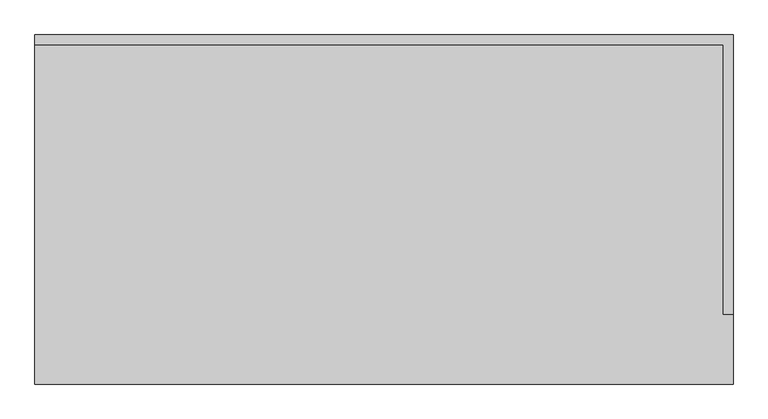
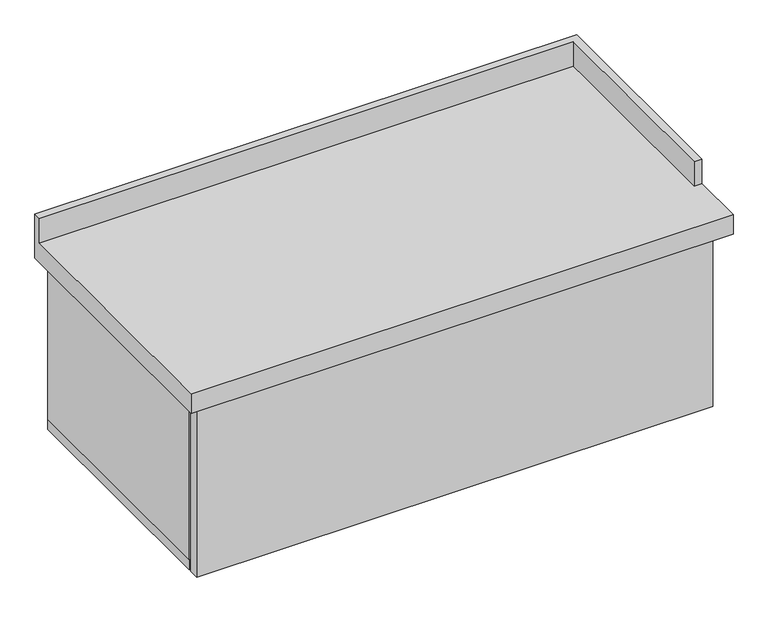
"""IFC4 building model written with IfcOpenShell, lengths in millimetres: furniture geometry, Mueble colgado 1 cajon - lavabo sobreponer : MB1 mueble baño colgado-1 cajon - 90cm 2."""

from ifc_helpers import new_model, si_unit, frame, origin, place, context, project, spatial, polyline, outline, extrude, faceted_brep, source, transform, mapped, element, save


def furniture_79dabd64(model_context):
    return source(origin(), model_context, "Body", "SolidModel", [
        faceted_brep([(635.0, -90.0, 800.0), (-400.0, -90.0, 800.0), (-400.0, -90.0, 750.0), (635.0, -90.0, 750.0), (635.0, -495.0, 800.0), (650.0, -495.0, 800.0), (650.0, -75.0, 800.0), (-400.0, -75.0, 800.0), (-400.0, -75.0, 710.0), (-400.0, -600.0, 710.0), (-400.0, -600.0, 750.0), (650.0, -75.0, 710.0), (635.0, -495.0, 750.0), (650.0, -495.0, 750.0), (650.0, -600.0, 750.0), (650.0, -600.0, 710.0)], [[[0, 1, 2, 3]], [[0, 4, 5, 6, 7, 1]], [[1, 7, 8, 9, 10, 2]], [[6, 11, 8, 7]], [[4, 12, 13, 5]], [[3, 12, 4, 0]], [[5, 13, 14, 15, 11, 6]], [[14, 13, 12, 3, 2, 10]], [[15, 9, 8, 11]], [[14, 10, 9, 15]]]),
        extrude(outline(polyline([(625.0, -575.0), (-375.0, -575.0), (-375.0, -555.0), (625.0, -555.0), (625.0, -575.0)])), frame((0.0, 0.0, 350.0), z_axis=(0.0, 0.0, 1.0), x_axis=(1.0, 0.0, 0.0)), (0.0, 0.0, 1.0), 350.0),
        extrude(outline(polyline([(625.0, -75.0), (625.0, -550.0), (605.0, -550.0), (605.0, -75.0), (625.0, -75.0)])), frame((0.0, 0.0, 370.0), z_axis=(0.0, 0.0, 1.0), x_axis=(1.0, 0.0, 0.0)), (0.0, 0.0, 1.0), 340.0),
        extrude(outline(polyline([(-355.0, -75.0), (-355.0, -550.0), (-375.0, -550.0), (-375.0, -75.0), (-355.0, -75.0)])), frame((0.0, 0.0, 370.0), z_axis=(0.0, 0.0, 1.0), x_axis=(1.0, 0.0, 0.0)), (0.0, 0.0, 1.0), 340.0),
        extrude(outline(polyline([(625.0, -550.0), (-375.0, -550.0), (-375.0, -75.0), (625.0, -75.0), (625.0, -550.0)])), frame((0.0, 0.0, 350.0), z_axis=(0.0, 0.0, 1.0), x_axis=(1.0, 0.0, 0.0)), (0.0, 0.0, 1.0), 20.0),
    ])


if __name__ == "__main__":
    model = new_model("IFC4")
    model_context = context("Model", 3, world=origin())
    ifc_project = project(units=[si_unit("LENGTHUNIT", "METRE", prefix="MILLI")], contexts=[model_context])
    site = spatial("IfcSite", under=ifc_project)
    building = spatial("IfcBuilding", under=site)
    placement = place(None, origin())
    furniture_shape = furniture_79dabd64(model_context)
    element("IfcFurniture", 1, ObjectType="Mueble colgado 1 cajon - lavabo sobreponer : MB1 mueble baño colgado-1 cajon - 90cm 2", at=placement, inside=building, context=model_context, shape_type="MappedRepresentation", body=[
        mapped(furniture_shape, transform((0.0, 0.0, 0.0), x_axis=(1.0, 0.0, 0.0), y_axis=(0.0, 1.0, 0.0), z_axis=(0.0, 0.0, 1.0))),
    ])
    save(model, "model.ifc")
